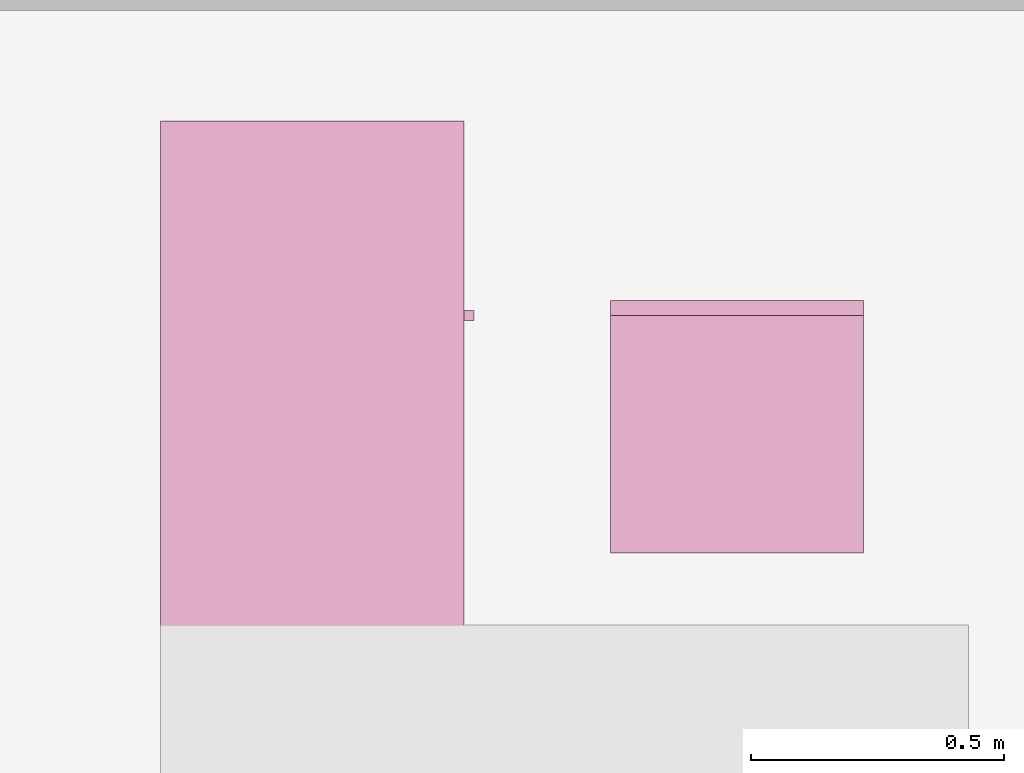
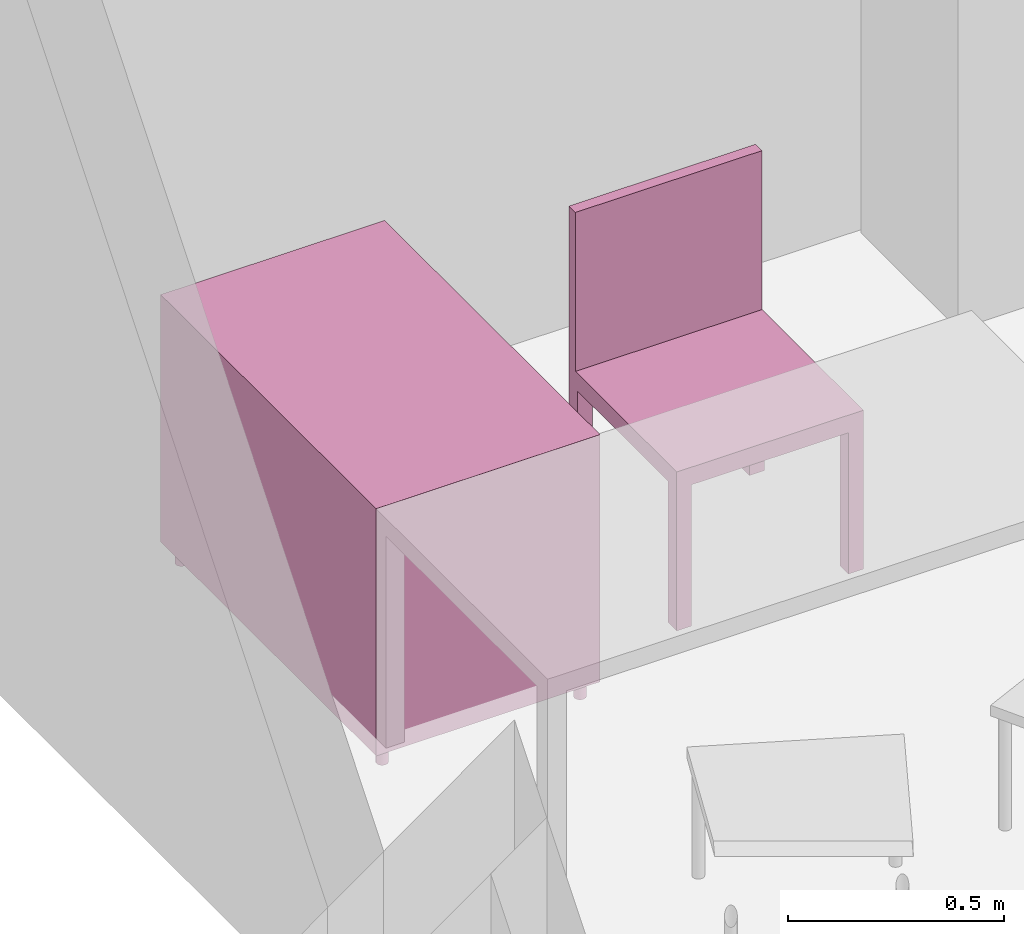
"""IFC4 building model written with IfcOpenShell, lengths in metres."""

from ifc_helpers import new_model, entity, si_unit, converted_unit, derived_unit, frame, origin, place, context, subcontext, project, spatial, faceted_brep, element, save


model = new_model("IFC4")

# Units and contexts
model_context = context("Model", 3, precision=1e-05, world=origin())
body_context = subcontext(model_context, "Body", "Model", "MODEL_VIEW")
ifc_project = project(units=[si_unit("LENGTHUNIT", "METRE"), si_unit("AREAUNIT", "SQUARE_METRE"), si_unit("VOLUMEUNIT", "CUBIC_METRE"), si_unit("MASSUNIT", "GRAM", prefix="KILO"), converted_unit("PLANEANGLEUNIT", "DEGREE", entity("IfcPlaneAngleMeasure", 0.0174532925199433), si_unit("PLANEANGLEUNIT", "RADIAN"), dimensions=[0, 0, 0, 0, 0, 0, 0]), derived_unit("THERMALTRANSMITTANCEUNIT", [(si_unit("POWERUNIT", "WATT"), 1), (si_unit("THERMODYNAMICTEMPERATUREUNIT", "KELVIN"), -1), (si_unit("LENGTHUNIT", "METRE"), -2)]), derived_unit("VOLUMETRICFLOWRATEUNIT", [(si_unit("LENGTHUNIT", "METRE"), 3), (converted_unit("TIMEUNIT", "hour", entity("IfcTimeMeasure", 3600.0), si_unit("TIMEUNIT", "SECOND"), dimensions=[0, 0, 1, 0, 0, 0, 0]), -1), (si_unit("LENGTHUNIT", "METRE"), -1)])], contexts=[model_context])

# Building, storeys
building_placement = place(None, origin())
building = spatial("IfcBuilding", under=ifc_project, at=building_placement, Name="HABITATGE PLURIFAMILIAR", CompositionType="ELEMENT")
storey_1_placement = place(building_placement, frame((0.0, 0.0, 12.27)))
storey_1 = spatial("IfcBuildingStorey", under=building, at=storey_1_placement, Name="PLANTA TERCERA", CompositionType="ELEMENT", Elevation=12.27)
storey_2_placement = place(storey_1_placement, frame((0.0, 0.0, 9.26)))
storey_2 = spatial("IfcBuildingStorey", under=storey_1, at=storey_2_placement, Name="NOU", CompositionType="PARTIAL")

# Furniture
furniture_1_placement = place(storey_2_placement, frame((421.603999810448, 26.8489946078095, -9.3599999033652)))
element("IfcFurniture", 1, at=furniture_1_placement, inside=storey_2, Name="Taula 100X60_P3", context=body_context, shape_type="Brep", body=[
    faceted_brep([(0.0, 0.0, 0.05), (0.0, 0.0, 0.07), (0.6, 0.0, 0.07), (0.6, 0.0, 0.05), (0.6, 1.00000000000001, 0.07), (0.6, 1.00000000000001, 0.05), (0.0, 1.00000000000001, 0.07), (0.0, 1.00000000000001, 0.05)], [[[0, 1, 2, 3]], [[3, 2, 4, 5]], [[5, 4, 6, 7]], [[7, 6, 1, 0]], [[0, 3, 5, 7]], [[1, 6, 4, 2]]], orient=[[False], [False], [False], [False], [False], [False]]),
    faceted_brep([(0.58, 0.0, 0.35), (0.58, 1.0, 0.35), (0.0, 1.0, 0.35), (0.0, 0.0, 0.35), (0.0, 0.0, 0.37), (0.0, 1.0, 0.37), (0.58, 1.0, 0.37), (0.58, 0.0, 0.37)], [[[0, 1, 2, 3]], [[4, 5, 6, 7]], [[3, 4, 7, 0]], [[2, 5, 4, 3]], [[1, 6, 5, 2]], [[0, 7, 6, 1]]], orient=[[False], [False], [False], [False], [False], [False]]),
    faceted_brep([(0.58, 0.510000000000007, 0.75), (0.6, 0.510000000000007, 0.75), (0.6, 0.510000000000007, 0.05), (0.58, 0.510000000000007, 0.05), (0.6, 1.00000000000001, 0.05), (0.58, 1.00000000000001, 0.05), (0.6, 1.00000000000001, 0.75), (0.58, 1.00000000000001, 0.75)], [[[0, 1, 2, 3]], [[3, 2, 4, 5]], [[5, 4, 6, 7]], [[7, 6, 1, 0]], [[0, 3, 5, 7]], [[1, 6, 4, 2]]], orient=[[False], [False], [False], [False], [False], [False]]),
    faceted_brep([(0.0, 0.0200000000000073, 0.75), (0.0, 0.0, 0.75), (0.0, 0.0, 0.0499999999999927), (0.0, 0.0200000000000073, 0.0499999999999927), (0.6, 0.0, 0.05), (0.6, 0.0200000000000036, 0.05), (0.6, 0.0, 0.75), (0.6, 0.0200000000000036, 0.75)], [[[0, 1, 2, 3]], [[3, 2, 4, 5]], [[5, 4, 6, 7]], [[7, 6, 1, 0]], [[0, 3, 5, 7]], [[1, 6, 4, 2]]], orient=[[False], [False], [False], [False], [False], [False]]),
    faceted_brep([(0.0, 0.530000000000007, 0.75), (0.0, 0.510000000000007, 0.75), (0.0, 0.510000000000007, 0.0499999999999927), (0.0, 0.530000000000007, 0.0499999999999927), (0.6, 0.510000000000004, 0.05), (0.6, 0.530000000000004, 0.05), (0.6, 0.510000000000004, 0.75), (0.6, 0.530000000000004, 0.75)], [[[0, 1, 2, 3]], [[3, 2, 4, 5]], [[5, 4, 6, 7]], [[7, 6, 1, 0]], [[0, 3, 5, 7]], [[1, 6, 4, 2]]], orient=[[False], [False], [False], [False], [False], [False]]),
    faceted_brep([(0.0, 0.530000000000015, 0.750000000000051), (0.0, 0.510000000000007, 0.750000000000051), (0.0, 0.510000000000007, 0.0499999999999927), (0.0, 0.530000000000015, 0.0499999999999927), (0.579999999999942, 0.510000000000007, 0.0499999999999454), (0.579999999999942, 0.530000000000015, 0.0499999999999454), (0.58, 0.510000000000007, 0.750000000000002), (0.58, 0.530000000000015, 0.750000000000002)], [[[0, 1, 2, 3]], [[3, 2, 4, 5]], [[5, 4, 6, 7]], [[7, 6, 1, 0]], [[0, 3, 5, 7]], [[1, 6, 4, 2]]], orient=[[False], [False], [False], [False], [False], [False]]),
    faceted_brep([(0.0, 1.00000000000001, 0.75), (0.0, 0.980000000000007, 0.75), (0.0, 0.980000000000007, 0.0499999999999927), (0.0, 1.00000000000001, 0.0499999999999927), (0.6, 0.980000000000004, 0.05), (0.6, 1.0, 0.05), (0.6, 0.980000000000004, 0.75), (0.6, 1.0, 0.75)], [[[0, 1, 2, 3]], [[3, 2, 4, 5]], [[5, 4, 6, 7]], [[7, 6, 1, 0]], [[0, 3, 5, 7]], [[1, 6, 4, 2]]], orient=[[False], [False], [False], [False], [False], [False]]),
    faceted_brep([(0.0, 0.0, 0.73), (0.0, 0.0, 0.75), (0.6, 0.0, 0.75), (0.6, 0.0, 0.73), (0.6, 1.00000000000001, 0.75), (0.6, 1.00000000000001, 0.73), (0.0, 1.00000000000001, 0.75), (0.0, 1.00000000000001, 0.73)], [[[0, 1, 2, 3]], [[3, 2, 4, 5]], [[5, 4, 6, 7]], [[7, 6, 1, 0]], [[0, 3, 5, 7]], [[1, 6, 4, 2]]], orient=[[False], [False], [False], [False], [False], [False]]),
    faceted_brep([(0.0, 0.0200000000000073, 0.75), (0.02, 0.0200000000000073, 0.75), (0.02, 0.0200000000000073, 0.05), (0.0, 0.0200000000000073, 0.05), (0.02, 1.00000000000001, 0.05), (0.0, 1.00000000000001, 0.05), (0.02, 1.00000000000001, 0.75), (0.0, 1.00000000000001, 0.75)], [[[0, 1, 2, 3]], [[3, 2, 4, 5]], [[5, 4, 6, 7]], [[7, 6, 1, 0]], [[0, 3, 5, 7]], [[1, 6, 4, 2]]], orient=[[False], [False], [False], [False], [False], [False]]),
    faceted_brep([(0.6, 0.625579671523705, 0.35), (0.6, 0.605579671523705, 0.35), (0.62, 0.605579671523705, 0.35), (0.62, 0.625579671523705, 0.35), (0.6, 0.605579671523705, 0.45), (0.6, 0.625579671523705, 0.45), (0.62, 0.625579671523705, 0.45), (0.62, 0.605579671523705, 0.45)], [[[0, 1, 2, 3]], [[4, 5, 6, 7]], [[1, 0, 5, 4]], [[2, 1, 4, 7]], [[3, 2, 7, 6]], [[0, 3, 6, 5]]], orient=[[False], [False], [False], [False], [False], [False]]),
    faceted_brep([(0.0361788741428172, 0.0499366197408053, 0.0), (0.0335849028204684, 0.0497096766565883, 0.0), (0.0310697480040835, 0.0490357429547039, 0.0), (0.0287098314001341, 0.047935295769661, 0.0), (0.02657685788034, 0.0464417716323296, 0.0), (0.024735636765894, 0.0446005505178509, 0.0), (0.0232421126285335, 0.0424675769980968, 0.0), (0.022141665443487, 0.0401076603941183, 0.0), (0.0214677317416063, 0.0375925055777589, 0.0), (0.0212407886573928, 0.0349985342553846, 0.0), (0.0214677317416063, 0.0324045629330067, 0.0), (0.022141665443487, 0.0298894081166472, 0.0), (0.0232421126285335, 0.0275294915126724, 0.0), (0.024735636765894, 0.0253965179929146, 0.0), (0.02657685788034, 0.0235552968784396, 0.0), (0.0287098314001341, 0.0220617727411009, 0.0), (0.0310697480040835, 0.0209613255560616, 0.0), (0.0335849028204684, 0.0202873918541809, 0.0), (0.0361788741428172, 0.0200604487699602, 0.0), (0.038772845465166, 0.0202873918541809, 0.0), (0.0412880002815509, 0.0209613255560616, 0.0), (0.0436479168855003, 0.0220617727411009, 0.0), (0.0457808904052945, 0.0235552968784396, 0.0), (0.0476221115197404, 0.0253965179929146, 0.0), (0.0491156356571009, 0.0275294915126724, 0.0), (0.0502160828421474, 0.0298894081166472, 0.0), (0.0508900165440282, 0.0324045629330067, 0.0), (0.0511169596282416, 0.0349985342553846, 0.0), (0.0508900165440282, 0.0375925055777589, 0.0), (0.0502160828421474, 0.0401076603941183, 0.0), (0.0491156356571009, 0.0424675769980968, 0.0), (0.0476221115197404, 0.0446005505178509, 0.0), (0.0457808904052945, 0.0464417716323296, 0.0), (0.0436479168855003, 0.047935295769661, 0.0), (0.0412880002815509, 0.0490357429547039, 0.0), (0.038772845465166, 0.0497096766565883, 0.0), (0.0361788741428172, 0.0499366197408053, 0.05), (0.038772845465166, 0.0497096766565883, 0.05), (0.0412880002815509, 0.0490357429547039, 0.05), (0.0436479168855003, 0.047935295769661, 0.05), (0.0457808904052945, 0.0464417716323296, 0.05), (0.0476221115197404, 0.0446005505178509, 0.05), (0.0491156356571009, 0.0424675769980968, 0.05), (0.0502160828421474, 0.0401076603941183, 0.05), (0.0508900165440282, 0.0375925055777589, 0.05), (0.0511169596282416, 0.0349985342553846, 0.05), (0.0508900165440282, 0.0324045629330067, 0.05), (0.0502160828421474, 0.0298894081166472, 0.05), (0.0491156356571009, 0.0275294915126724, 0.05), (0.0476221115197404, 0.0253965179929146, 0.05), (0.0457808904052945, 0.0235552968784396, 0.05), (0.0436479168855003, 0.0220617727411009, 0.05), (0.0412880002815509, 0.0209613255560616, 0.05), (0.038772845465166, 0.0202873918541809, 0.05), (0.0361788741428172, 0.0200604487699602, 0.05), (0.0335849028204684, 0.0202873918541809, 0.05), (0.0310697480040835, 0.0209613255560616, 0.05), (0.0287098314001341, 0.0220617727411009, 0.05), (0.02657685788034, 0.0235552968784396, 0.05), (0.024735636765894, 0.0253965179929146, 0.05), (0.0232421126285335, 0.0275294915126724, 0.05), (0.022141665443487, 0.0298894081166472, 0.05), (0.0214677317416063, 0.0324045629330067, 0.05), (0.0212407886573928, 0.0349985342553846, 0.05), (0.0214677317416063, 0.0375925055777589, 0.05), (0.022141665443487, 0.0401076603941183, 0.05), (0.0232421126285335, 0.0424675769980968, 0.05), (0.024735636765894, 0.0446005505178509, 0.05), (0.02657685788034, 0.0464417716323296, 0.05), (0.0287098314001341, 0.047935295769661, 0.05), (0.0310697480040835, 0.0490357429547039, 0.05), (0.0335849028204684, 0.0497096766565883, 0.05)], [[[0, 1, 2, 3, 4, 5, 6, 7, 8, 9, 10, 11, 12, 13, 14, 15, 16, 17, 18, 19, 20, 21, 22, 23, 24, 25, 26, 27, 28, 29, 30, 31, 32, 33, 34, 35]], [[36, 37, 38, 39, 40, 41, 42, 43, 44, 45, 46, 47, 48, 49, 50, 51, 52, 53, 54, 55, 56, 57, 58, 59, 60, 61, 62, 63, 64, 65, 66, 67, 68, 69, 70, 71]], [[35, 37, 36, 0]], [[34, 38, 37, 35]], [[33, 39, 38, 34]], [[32, 40, 39, 33]], [[31, 41, 40, 32]], [[30, 42, 41, 31]], [[29, 43, 42, 30]], [[28, 44, 43, 29]], [[27, 45, 44, 28]], [[26, 46, 45, 27]], [[25, 47, 46, 26]], [[24, 48, 47, 25]], [[23, 49, 48, 24]], [[22, 50, 49, 23]], [[21, 51, 50, 22]], [[20, 52, 51, 21]], [[19, 53, 52, 20]], [[18, 54, 53, 19]], [[17, 55, 54, 18]], [[16, 56, 55, 17]], [[15, 57, 56, 16]], [[14, 58, 57, 15]], [[13, 59, 58, 14]], [[12, 60, 59, 13]], [[11, 61, 60, 12]], [[10, 62, 61, 11]], [[9, 63, 62, 10]], [[8, 64, 63, 9]], [[7, 65, 64, 8]], [[6, 66, 65, 7]], [[5, 67, 66, 6]], [[4, 68, 67, 5]], [[3, 69, 68, 4]], [[2, 70, 69, 3]], [[1, 71, 70, 2]], [[0, 36, 71, 1]]], orient=[[False], [False], [False], [False], [False], [False], [False], [False], [False], [False], [False], [False], [False], [False], [False], [False], [False], [False], [False], [False], [False], [False], [False], [False], [False], [False], [False], [False], [False], [False], [False], [False], [False], [False], [False], [False], [False], [False]]),
    faceted_brep([(0.566178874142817, 0.0499366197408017, 0.0), (0.563584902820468, 0.0497096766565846, 0.0), (0.561069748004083, 0.0490357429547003, 0.0), (0.558709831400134, 0.047935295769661, 0.0), (0.55657685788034, 0.046441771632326, 0.0), (0.554735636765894, 0.0446005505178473, 0.0), (0.553242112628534, 0.0424675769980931, 0.0), (0.552141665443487, 0.0401076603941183, 0.0), (0.551467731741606, 0.0375925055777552, 0.0), (0.551240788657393, 0.0349985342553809, 0.0), (0.551467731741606, 0.0324045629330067, 0.0), (0.552141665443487, 0.0298894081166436, 0.0), (0.553242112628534, 0.0275294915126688, 0.0), (0.554735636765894, 0.0253965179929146, 0.0), (0.55657685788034, 0.0235552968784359, 0.0), (0.558709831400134, 0.0220617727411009, 0.0), (0.561069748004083, 0.0209613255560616, 0.0), (0.563584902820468, 0.0202873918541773, 0.0), (0.566178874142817, 0.0200604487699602, 0.0), (0.568772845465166, 0.0202873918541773, 0.0), (0.571288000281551, 0.0209613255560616, 0.0), (0.5736479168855, 0.0220617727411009, 0.0), (0.575780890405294, 0.0235552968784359, 0.0), (0.57762211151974, 0.0253965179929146, 0.0), (0.579115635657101, 0.0275294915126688, 0.0), (0.580216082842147, 0.0298894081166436, 0.0), (0.580890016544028, 0.0324045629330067, 0.0), (0.581116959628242, 0.0349985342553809, 0.0), (0.580890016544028, 0.0375925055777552, 0.0), (0.580216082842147, 0.0401076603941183, 0.0), (0.579115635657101, 0.0424675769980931, 0.0), (0.57762211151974, 0.0446005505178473, 0.0), (0.575780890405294, 0.046441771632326, 0.0), (0.5736479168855, 0.047935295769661, 0.0), (0.571288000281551, 0.0490357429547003, 0.0), (0.568772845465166, 0.0497096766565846, 0.0), (0.566178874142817, 0.0499366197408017, 0.05), (0.568772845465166, 0.0497096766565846, 0.05), (0.571288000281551, 0.0490357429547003, 0.05), (0.5736479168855, 0.047935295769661, 0.05), (0.575780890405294, 0.046441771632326, 0.05), (0.57762211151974, 0.0446005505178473, 0.05), (0.579115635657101, 0.0424675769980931, 0.05), (0.580216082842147, 0.0401076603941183, 0.05), (0.580890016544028, 0.0375925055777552, 0.05), (0.581116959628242, 0.0349985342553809, 0.05), (0.580890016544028, 0.0324045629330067, 0.05), (0.580216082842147, 0.0298894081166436, 0.05), (0.579115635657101, 0.0275294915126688, 0.05), (0.57762211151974, 0.0253965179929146, 0.05), (0.575780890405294, 0.0235552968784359, 0.05), (0.5736479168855, 0.0220617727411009, 0.05), (0.571288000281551, 0.0209613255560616, 0.05), (0.568772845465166, 0.0202873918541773, 0.05), (0.566178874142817, 0.0200604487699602, 0.05), (0.563584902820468, 0.0202873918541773, 0.05), (0.561069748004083, 0.0209613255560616, 0.05), (0.558709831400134, 0.0220617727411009, 0.05), (0.55657685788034, 0.0235552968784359, 0.05), (0.554735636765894, 0.0253965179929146, 0.05), (0.553242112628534, 0.0275294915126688, 0.05), (0.552141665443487, 0.0298894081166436, 0.05), (0.551467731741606, 0.0324045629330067, 0.05), (0.551240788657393, 0.0349985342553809, 0.05), (0.551467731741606, 0.0375925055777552, 0.05), (0.552141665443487, 0.0401076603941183, 0.05), (0.553242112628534, 0.0424675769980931, 0.05), (0.554735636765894, 0.0446005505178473, 0.05), (0.55657685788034, 0.046441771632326, 0.05), (0.558709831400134, 0.047935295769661, 0.05), (0.561069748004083, 0.0490357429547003, 0.05), (0.563584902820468, 0.0497096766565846, 0.05)], [[[0, 1, 2, 3, 4, 5, 6, 7, 8, 9, 10, 11, 12, 13, 14, 15, 16, 17, 18, 19, 20, 21, 22, 23, 24, 25, 26, 27, 28, 29, 30, 31, 32, 33, 34, 35]], [[36, 37, 38, 39, 40, 41, 42, 43, 44, 45, 46, 47, 48, 49, 50, 51, 52, 53, 54, 55, 56, 57, 58, 59, 60, 61, 62, 63, 64, 65, 66, 67, 68, 69, 70, 71]], [[35, 37, 36, 0]], [[34, 38, 37, 35]], [[33, 39, 38, 34]], [[32, 40, 39, 33]], [[31, 41, 40, 32]], [[30, 42, 41, 31]], [[29, 43, 42, 30]], [[28, 44, 43, 29]], [[27, 45, 44, 28]], [[26, 46, 45, 27]], [[25, 47, 46, 26]], [[24, 48, 47, 25]], [[23, 49, 48, 24]], [[22, 50, 49, 23]], [[21, 51, 50, 22]], [[20, 52, 51, 21]], [[19, 53, 52, 20]], [[18, 54, 53, 19]], [[17, 55, 54, 18]], [[16, 56, 55, 17]], [[15, 57, 56, 16]], [[14, 58, 57, 15]], [[13, 59, 58, 14]], [[12, 60, 59, 13]], [[11, 61, 60, 12]], [[10, 62, 61, 11]], [[9, 63, 62, 10]], [[8, 64, 63, 9]], [[7, 65, 64, 8]], [[6, 66, 65, 7]], [[5, 67, 66, 6]], [[4, 68, 67, 5]], [[3, 69, 68, 4]], [[2, 70, 69, 3]], [[1, 71, 70, 2]], [[0, 36, 71, 1]]], orient=[[False], [False], [False], [False], [False], [False], [False], [False], [False], [False], [False], [False], [False], [False], [False], [False], [False], [False], [False], [False], [False], [False], [False], [False], [False], [False], [False], [False], [False], [False], [False], [False], [False], [False], [False], [False], [False], [False]]),
    faceted_brep([(0.564999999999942, 0.97998298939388, 0.0), (0.562406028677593, 0.979756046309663, 0.0), (0.559890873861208, 0.979082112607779, 0.0), (0.557530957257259, 0.97798166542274, 0.0), (0.555397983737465, 0.976488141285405, 0.0), (0.553556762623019, 0.974646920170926, 0.0), (0.552063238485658, 0.972513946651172, 0.0), (0.550962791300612, 0.970154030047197, 0.0), (0.550288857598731, 0.967638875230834, 0.0), (0.550061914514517, 0.96504490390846, 0.0), (0.550288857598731, 0.962450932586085, 0.0), (0.550962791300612, 0.959935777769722, 0.0), (0.552063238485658, 0.957575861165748, 0.0), (0.553556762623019, 0.955442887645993, 0.0), (0.555397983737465, 0.953601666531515, 0.0), (0.557530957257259, 0.95210814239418, 0.0), (0.559890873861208, 0.95100769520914, 0.0), (0.562406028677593, 0.950333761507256, 0.0), (0.564999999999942, 0.950106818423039, 0.0), (0.567593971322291, 0.950333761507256, 0.0), (0.570109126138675, 0.95100769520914, 0.0), (0.572469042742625, 0.95210814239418, 0.0), (0.574602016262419, 0.953601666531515, 0.0), (0.576443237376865, 0.955442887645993, 0.0), (0.577936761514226, 0.957575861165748, 0.0), (0.579037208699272, 0.959935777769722, 0.0), (0.579711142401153, 0.962450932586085, 0.0), (0.579938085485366, 0.96504490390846, 0.0), (0.579711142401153, 0.967638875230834, 0.0), (0.579037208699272, 0.970154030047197, 0.0), (0.577936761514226, 0.972513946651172, 0.0), (0.576443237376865, 0.974646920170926, 0.0), (0.574602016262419, 0.976488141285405, 0.0), (0.572469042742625, 0.97798166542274, 0.0), (0.570109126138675, 0.979082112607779, 0.0), (0.567593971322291, 0.979756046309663, 0.0), (0.564999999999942, 0.97998298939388, 0.05), (0.567593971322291, 0.979756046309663, 0.05), (0.570109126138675, 0.979082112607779, 0.05), (0.572469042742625, 0.97798166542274, 0.05), (0.574602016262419, 0.976488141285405, 0.05), (0.576443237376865, 0.974646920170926, 0.05), (0.577936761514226, 0.972513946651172, 0.05), (0.579037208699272, 0.970154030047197, 0.05), (0.579711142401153, 0.967638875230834, 0.05), (0.579938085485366, 0.96504490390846, 0.05), (0.579711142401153, 0.962450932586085, 0.05), (0.579037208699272, 0.959935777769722, 0.05), (0.577936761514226, 0.957575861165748, 0.05), (0.576443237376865, 0.955442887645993, 0.05), (0.574602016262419, 0.953601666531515, 0.05), (0.572469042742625, 0.95210814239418, 0.05), (0.570109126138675, 0.95100769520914, 0.05), (0.567593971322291, 0.950333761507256, 0.05), (0.564999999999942, 0.950106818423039, 0.05), (0.562406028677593, 0.950333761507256, 0.05), (0.559890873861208, 0.95100769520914, 0.05), (0.557530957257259, 0.95210814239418, 0.05), (0.555397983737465, 0.953601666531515, 0.05), (0.553556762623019, 0.955442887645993, 0.05), (0.552063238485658, 0.957575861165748, 0.05), (0.550962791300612, 0.959935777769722, 0.05), (0.550288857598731, 0.962450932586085, 0.05), (0.550061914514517, 0.96504490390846, 0.05), (0.550288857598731, 0.967638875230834, 0.05), (0.550962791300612, 0.970154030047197, 0.05), (0.552063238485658, 0.972513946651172, 0.05), (0.553556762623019, 0.974646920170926, 0.05), (0.555397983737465, 0.976488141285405, 0.05), (0.557530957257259, 0.97798166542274, 0.05), (0.559890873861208, 0.979082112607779, 0.05), (0.562406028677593, 0.979756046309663, 0.05)], [[[0, 1, 2, 3, 4, 5, 6, 7, 8, 9, 10, 11, 12, 13, 14, 15, 16, 17, 18, 19, 20, 21, 22, 23, 24, 25, 26, 27, 28, 29, 30, 31, 32, 33, 34, 35]], [[36, 37, 38, 39, 40, 41, 42, 43, 44, 45, 46, 47, 48, 49, 50, 51, 52, 53, 54, 55, 56, 57, 58, 59, 60, 61, 62, 63, 64, 65, 66, 67, 68, 69, 70, 71]], [[35, 37, 36, 0]], [[34, 38, 37, 35]], [[33, 39, 38, 34]], [[32, 40, 39, 33]], [[31, 41, 40, 32]], [[30, 42, 41, 31]], [[29, 43, 42, 30]], [[28, 44, 43, 29]], [[27, 45, 44, 28]], [[26, 46, 45, 27]], [[25, 47, 46, 26]], [[24, 48, 47, 25]], [[23, 49, 48, 24]], [[22, 50, 49, 23]], [[21, 51, 50, 22]], [[20, 52, 51, 21]], [[19, 53, 52, 20]], [[18, 54, 53, 19]], [[17, 55, 54, 18]], [[16, 56, 55, 17]], [[15, 57, 56, 16]], [[14, 58, 57, 15]], [[13, 59, 58, 14]], [[12, 60, 59, 13]], [[11, 61, 60, 12]], [[10, 62, 61, 11]], [[9, 63, 62, 10]], [[8, 64, 63, 9]], [[7, 65, 64, 8]], [[6, 66, 65, 7]], [[5, 67, 66, 6]], [[4, 68, 67, 5]], [[3, 69, 68, 4]], [[2, 70, 69, 3]], [[1, 71, 70, 2]], [[0, 36, 71, 1]]], orient=[[False], [False], [False], [False], [False], [False], [False], [False], [False], [False], [False], [False], [False], [False], [False], [False], [False], [False], [False], [False], [False], [False], [False], [False], [False], [False], [False], [False], [False], [False], [False], [False], [False], [False], [False], [False], [False], [False]]),
    faceted_brep([(0.0349662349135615, 0.979647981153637, 0.0), (0.0323722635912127, 0.97942103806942, 0.0), (0.0298571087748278, 0.978747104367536, 0.0), (0.0274971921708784, 0.977646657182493, 0.0), (0.0253642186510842, 0.976153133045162, 0.0), (0.0235229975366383, 0.974311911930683, 0.0), (0.0220294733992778, 0.972178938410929, 0.0), (0.0209290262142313, 0.96981902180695, 0.0), (0.0202550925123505, 0.967303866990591, 0.0), (0.0200281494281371, 0.964709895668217, 0.0), (0.0202550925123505, 0.962115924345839, 0.0), (0.0209290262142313, 0.959600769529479, 0.0), (0.0220294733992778, 0.957240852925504, 0.0), (0.0235229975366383, 0.955107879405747, 0.0), (0.0253642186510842, 0.953266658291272, 0.0), (0.0274971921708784, 0.951773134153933, 0.0), (0.0298571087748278, 0.950672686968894, 0.0), (0.0323722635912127, 0.949998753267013, 0.0), (0.0349662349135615, 0.949771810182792, 0.0), (0.0375602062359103, 0.949998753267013, 0.0), (0.0400753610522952, 0.950672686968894, 0.0), (0.0424352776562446, 0.951773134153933, 0.0), (0.0445682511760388, 0.953266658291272, 0.0), (0.0464094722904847, 0.955107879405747, 0.0), (0.0479029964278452, 0.957240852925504, 0.0), (0.0490034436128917, 0.959600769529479, 0.0), (0.0496773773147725, 0.962115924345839, 0.0), (0.0499043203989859, 0.964709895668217, 0.0), (0.0496773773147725, 0.967303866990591, 0.0), (0.0490034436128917, 0.96981902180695, 0.0), (0.0479029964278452, 0.972178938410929, 0.0), (0.0464094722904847, 0.974311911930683, 0.0), (0.0445682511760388, 0.976153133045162, 0.0), (0.0424352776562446, 0.977646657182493, 0.0), (0.0400753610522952, 0.978747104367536, 0.0), (0.0375602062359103, 0.97942103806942, 0.0), (0.0349662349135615, 0.979647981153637, 0.05), (0.0375602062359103, 0.97942103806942, 0.05), (0.0400753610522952, 0.978747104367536, 0.05), (0.0424352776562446, 0.977646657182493, 0.05), (0.0445682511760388, 0.976153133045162, 0.05), (0.0464094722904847, 0.974311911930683, 0.05), (0.0479029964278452, 0.972178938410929, 0.05), (0.0490034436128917, 0.96981902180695, 0.05), (0.0496773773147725, 0.967303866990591, 0.05), (0.0499043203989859, 0.964709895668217, 0.05), (0.0496773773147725, 0.962115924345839, 0.05), (0.0490034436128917, 0.959600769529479, 0.05), (0.0479029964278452, 0.957240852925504, 0.05), (0.0464094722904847, 0.955107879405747, 0.05), (0.0445682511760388, 0.953266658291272, 0.05), (0.0424352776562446, 0.951773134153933, 0.05), (0.0400753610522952, 0.950672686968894, 0.05), (0.0375602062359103, 0.949998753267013, 0.05), (0.0349662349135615, 0.949771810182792, 0.05), (0.0323722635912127, 0.949998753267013, 0.05), (0.0298571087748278, 0.950672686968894, 0.05), (0.0274971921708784, 0.951773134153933, 0.05), (0.0253642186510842, 0.953266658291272, 0.05), (0.0235229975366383, 0.955107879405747, 0.05), (0.0220294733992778, 0.957240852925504, 0.05), (0.0209290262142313, 0.959600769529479, 0.05), (0.0202550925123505, 0.962115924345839, 0.05), (0.0200281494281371, 0.964709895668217, 0.05), (0.0202550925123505, 0.967303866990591, 0.05), (0.0209290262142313, 0.96981902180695, 0.05), (0.0220294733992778, 0.972178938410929, 0.05), (0.0235229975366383, 0.974311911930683, 0.05), (0.0253642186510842, 0.976153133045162, 0.05), (0.0274971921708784, 0.977646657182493, 0.05), (0.0298571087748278, 0.978747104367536, 0.05), (0.0323722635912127, 0.97942103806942, 0.05)], [[[0, 1, 2, 3, 4, 5, 6, 7, 8, 9, 10, 11, 12, 13, 14, 15, 16, 17, 18, 19, 20, 21, 22, 23, 24, 25, 26, 27, 28, 29, 30, 31, 32, 33, 34, 35]], [[36, 37, 38, 39, 40, 41, 42, 43, 44, 45, 46, 47, 48, 49, 50, 51, 52, 53, 54, 55, 56, 57, 58, 59, 60, 61, 62, 63, 64, 65, 66, 67, 68, 69, 70, 71]], [[35, 37, 36, 0]], [[34, 38, 37, 35]], [[33, 39, 38, 34]], [[32, 40, 39, 33]], [[31, 41, 40, 32]], [[30, 42, 41, 31]], [[29, 43, 42, 30]], [[28, 44, 43, 29]], [[27, 45, 44, 28]], [[26, 46, 45, 27]], [[25, 47, 46, 26]], [[24, 48, 47, 25]], [[23, 49, 48, 24]], [[22, 50, 49, 23]], [[21, 51, 50, 22]], [[20, 52, 51, 21]], [[19, 53, 52, 20]], [[18, 54, 53, 19]], [[17, 55, 54, 18]], [[16, 56, 55, 17]], [[15, 57, 56, 16]], [[14, 58, 57, 15]], [[13, 59, 58, 14]], [[12, 60, 59, 13]], [[11, 61, 60, 12]], [[10, 62, 61, 11]], [[9, 63, 62, 10]], [[8, 64, 63, 9]], [[7, 65, 64, 8]], [[6, 66, 65, 7]], [[5, 67, 66, 6]], [[4, 68, 67, 5]], [[3, 69, 68, 4]], [[2, 70, 69, 3]], [[1, 71, 70, 2]], [[0, 36, 71, 1]]], orient=[[False], [False], [False], [False], [False], [False], [False], [False], [False], [False], [False], [False], [False], [False], [False], [False], [False], [False], [False], [False], [False], [False], [False], [False], [False], [False], [False], [False], [False], [False], [False], [False], [False], [False], [False], [False], [False], [False]]),
])
furniture_2_placement = place(storey_2_placement, frame((422.493378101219, 26.9949327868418, -9.35590342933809)))
element("IfcFurniture", 2, at=furniture_2_placement, inside=storey_2, Name="Cadira d'Oficina_P3", context=body_context, shape_type="Brep", body=[
    faceted_brep([(0.0, 0.0, 0.4), (0.5, 0.0, 0.4), (0.5, 0.500000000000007, 0.4), (0.0, 0.500000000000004, 0.4), (0.0, 0.500000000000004, 0.45), (0.5, 0.500000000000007, 0.45), (0.5, 0.0, 0.45), (0.0, 0.0, 0.45)], [[[0, 1, 2, 3]], [[4, 5, 6, 7]], [[3, 4, 7, 0]], [[2, 5, 4, 3]], [[1, 6, 5, 2]], [[0, 7, 6, 1]]], orient=[[False], [False], [False], [False], [False], [False]]),
    faceted_brep([(0.5, 0.460000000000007, 0.0), (0.5, 0.500000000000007, 0.0), (0.46, 0.500000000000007, 0.0), (0.46, 0.460000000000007, 0.0), (0.46, 0.460000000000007, 0.4), (0.46, 0.500000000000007, 0.4), (0.5, 0.500000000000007, 0.4), (0.5, 0.460000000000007, 0.4)], [[[0, 1, 2, 3]], [[4, 5, 6, 7]], [[3, 4, 7, 0]], [[2, 5, 4, 3]], [[1, 6, 5, 2]], [[0, 7, 6, 1]]], orient=[[False], [False], [False], [False], [False], [False]]),
    faceted_brep([(0.5, 0.0, 0.0), (0.5, 0.0400000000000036, 0.0), (0.46, 0.0400000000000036, 0.0), (0.46, 0.0, 0.0), (0.46, 0.0, 0.4), (0.46, 0.0400000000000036, 0.4), (0.5, 0.0400000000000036, 0.4), (0.5, 0.0, 0.4)], [[[0, 1, 2, 3]], [[4, 5, 6, 7]], [[3, 4, 7, 0]], [[2, 5, 4, 3]], [[1, 6, 5, 2]], [[0, 7, 6, 1]]], orient=[[False], [False], [False], [False], [False], [False]]),
    faceted_brep([(0.04, 0.460000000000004, 0.0), (0.04, 0.500000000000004, 0.0), (0.0, 0.500000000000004, 0.0), (0.0, 0.460000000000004, 0.0), (0.0, 0.460000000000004, 0.4), (0.0, 0.500000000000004, 0.4), (0.04, 0.500000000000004, 0.4), (0.04, 0.460000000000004, 0.4)], [[[0, 1, 2, 3]], [[4, 5, 6, 7]], [[3, 4, 7, 0]], [[2, 5, 4, 3]], [[1, 6, 5, 2]], [[0, 7, 6, 1]]], orient=[[False], [False], [False], [False], [False], [False]]),
    faceted_brep([(0.04, 0.0, 0.0), (0.04, 0.04, 0.0), (0.0, 0.04, 0.0), (0.0, 0.0, 0.0), (0.0, 0.0, 0.4), (0.0, 0.04, 0.4), (0.04, 0.04, 0.4), (0.04, 0.0, 0.4)], [[[0, 1, 2, 3]], [[4, 5, 6, 7]], [[3, 4, 7, 0]], [[2, 5, 4, 3]], [[1, 6, 5, 2]], [[0, 7, 6, 1]]], orient=[[False], [False], [False], [False], [False], [False]]),
    faceted_brep([(0.5, 0.470000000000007, 0.45), (0.5, 0.500000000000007, 0.45), (0.0, 0.500000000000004, 0.45), (0.0, 0.470000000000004, 0.45), (0.0, 0.470000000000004, 0.9), (0.0, 0.500000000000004, 0.9), (0.5, 0.500000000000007, 0.9), (0.5, 0.470000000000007, 0.9)], [[[0, 1, 2, 3]], [[4, 5, 6, 7]], [[3, 4, 7, 0]], [[2, 5, 4, 3]], [[1, 6, 5, 2]], [[0, 7, 6, 1]]], orient=[[False], [False], [False], [False], [False], [False]]),
])

save(model, "model.ifc")
